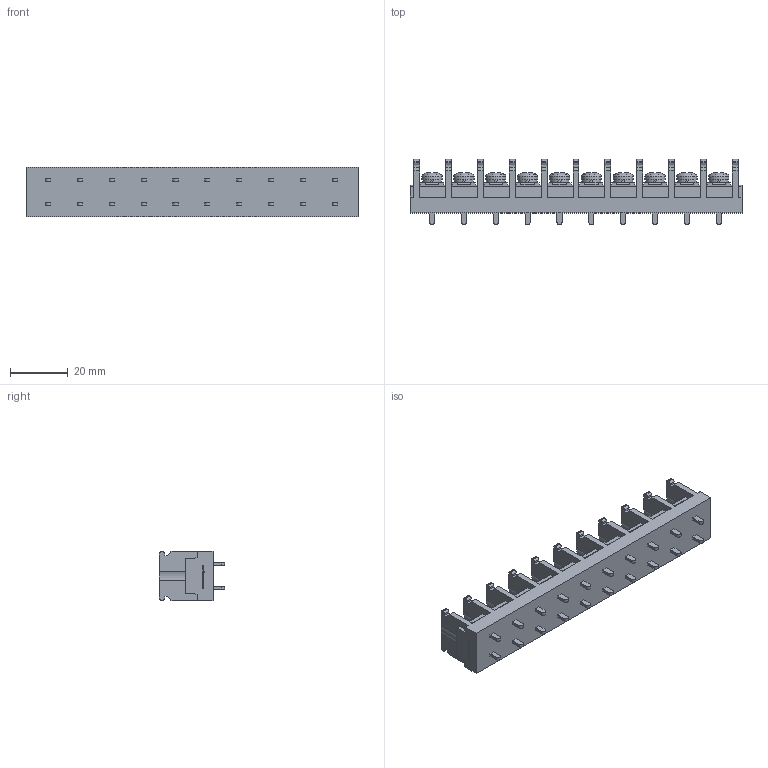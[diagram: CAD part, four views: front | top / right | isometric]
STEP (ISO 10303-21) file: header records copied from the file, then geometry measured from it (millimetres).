
FILE_DESCRIPTION(/* description */ ('Alibre Inc.'),/* implementation_level */ '2;1');
FILE_NAME(/* name */ 'export0',/* time_stamp */ '2015-10-19T19:45:24+09:00',/* author */ (''),/* organization */ (''),/* preprocessor_version */ 'ST-DEVELOPER v14',/* originating_system */ 'Alibre',/* authorisation */ '');
FILE_SCHEMA (('CONFIG_CONTROL_DESIGN'));
Length unit declared in the file: centimetre
Products named in the file (1): ID_1
Bounding box: 114.6 x 22.5 x 17 mm (x, y, z)
Volume: 21649.8 mm3; surface area: 12304.4 mm2
Topology: 1 solids, 1 shells, 1208 faces, 3348 edges, 2222 vertices
Faces by surface type: plane 850, cylinder 184, bspline 104, cone 40, torus 20, sphere 10
Full cylindrical faces by diameter (mm): 4 x10, 6.5 x10, 7 x10
Entity records: 37299 total; most frequent: CARTESIAN_POINT 7883, ORIENTED_EDGE 6556, DIRECTION 4956, EDGE_CURVE 3278, VECTOR 2310, LINE 2310, VERTEX_POINT 2192, AXIS2_PLACEMENT_3D 1733
